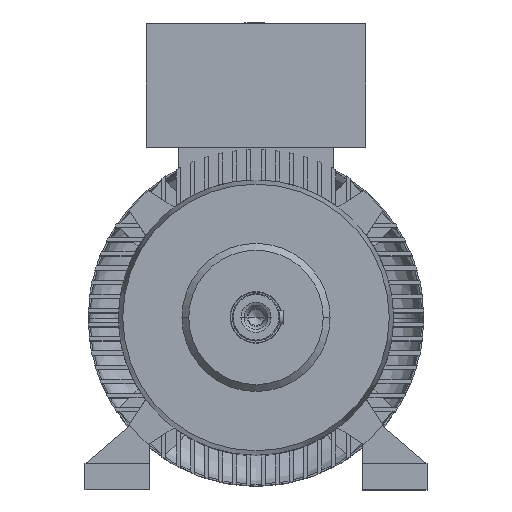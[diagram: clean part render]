
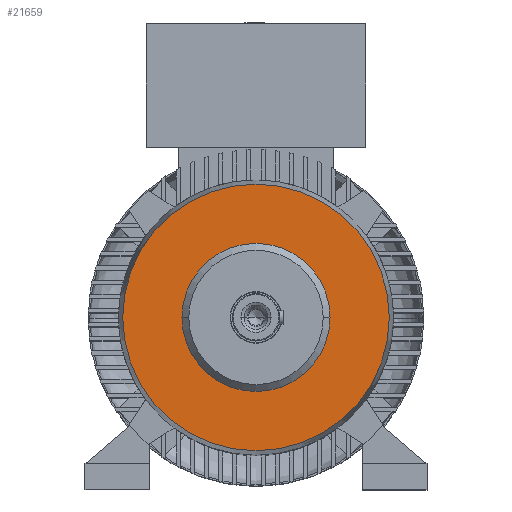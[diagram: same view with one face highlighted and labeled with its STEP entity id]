
A CAD part, top view. The second image highlights one B-rep face of the part: STEP entity #21659.
In plain terms, the highlighted planar face has unit normal (0, 0, 1).
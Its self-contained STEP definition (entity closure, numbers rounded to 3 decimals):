
#130 = AXIS2_PLACEMENT_3D ( 'NONE', #6249, #307, #8210 ) ;
#150 = CARTESIAN_POINT ( 'NONE',  ( 0., 0., 275.5 ) ) ;
#307 = DIRECTION ( 'NONE',  ( 0., 0., -1. ) ) ;
#3671 = EDGE_CURVE ( 'NONE', #22993, #3715, #10143, .T. ) ;
#3715 = VERTEX_POINT ( 'NONE', #15046 ) ;
#5599 = CARTESIAN_POINT ( 'NONE',  ( 0., 0., 275.5 ) ) ;
#5700 = DIRECTION ( 'NONE',  ( 1., 0., 0. ) ) ;
#5882 = PLANE ( 'NONE',  #22660 ) ;
#6249 = CARTESIAN_POINT ( 'NONE',  ( 0., 0., 275.5 ) ) ;
#8210 = DIRECTION ( 'NONE',  ( 1., 0., 0. ) ) ;
#8839 = EDGE_LOOP ( 'NONE', ( #21952, #17677 ) ) ;
#10143 = CIRCLE ( 'NONE', #20970, 86.2 ) ;
#12250 = ORIENTED_EDGE ( 'NONE', *, *, #3671, .T. ) ;
#12278 = CARTESIAN_POINT ( 'NONE',  ( 0., 155.101, 275.5 ) ) ;
#12319 = CARTESIAN_POINT ( 'NONE',  ( -86.2, 0., 275.5 ) ) ;
#13042 = DIRECTION ( 'NONE',  ( 0., -1., 0. ) ) ;
#13240 = EDGE_CURVE ( 'NONE', #17937, #16382, #20262, .T. ) ;
#13767 = CARTESIAN_POINT ( 'NONE',  ( 0., 155.101, 275.5 ) ) ;
#14944 = EDGE_LOOP ( 'NONE', ( #16823, #12250 ) ) ;
#14949 = DIRECTION ( 'NONE',  ( 0., 0., 1. ) ) ;
#15023 = CARTESIAN_POINT ( 'NONE',  ( 0., 0., 275.5 ) ) ;
#15046 = CARTESIAN_POINT ( 'NONE',  ( 86.2, 0., 275.5 ) ) ;
#15066 = CARTESIAN_POINT ( 'NONE',  ( 0., -155.101, 275.5 ) ) ;
#15391 = DIRECTION ( 'NONE',  ( 0., 0., -1. ) ) ;
#16382 = VERTEX_POINT ( 'NONE', #15066 ) ;
#16823 = ORIENTED_EDGE ( 'NONE', *, *, #23837, .T. ) ;
#16829 = FACE_OUTER_BOUND ( 'NONE', #8839, .T. ) ;
#17351 = DIRECTION ( 'NONE',  ( 1., 0., 0. ) ) ;
#17677 = ORIENTED_EDGE ( 'NONE', *, *, #13240, .T. ) ;
#17845 = DIRECTION ( 'NONE',  ( 0., 0., 1. ) ) ;
#17937 = VERTEX_POINT ( 'NONE', #12278 ) ;
#18673 = AXIS2_PLACEMENT_3D ( 'NONE', #150, #17845, #23631 ) ;
#19706 = CIRCLE ( 'NONE', #130, 86.2 ) ;
#19962 = EDGE_CURVE ( 'NONE', #16382, #17937, #24612, .T. ) ;
#20262 = CIRCLE ( 'NONE', #20860, 155.101 ) ;
#20860 = AXIS2_PLACEMENT_3D ( 'NONE', #15023, #14949, #13042 ) ;
#20970 = AXIS2_PLACEMENT_3D ( 'NONE', #5599, #15391, #17351 ) ;
#21659 = ADVANCED_FACE ( 'NONE', ( #23311, #16829 ), #5882, .F. ) ;
#21952 = ORIENTED_EDGE ( 'NONE', *, *, #19962, .T. ) ;
#22660 = AXIS2_PLACEMENT_3D ( 'NONE', #13767, #23600, #5700 ) ;
#22993 = VERTEX_POINT ( 'NONE', #12319 ) ;
#23311 = FACE_BOUND ( 'NONE', #14944, .T. ) ;
#23600 = DIRECTION ( 'NONE',  ( 0., 0., -1. ) ) ;
#23631 = DIRECTION ( 'NONE',  ( 0., -1., 0. ) ) ;
#23837 = EDGE_CURVE ( 'NONE', #3715, #22993, #19706, .T. ) ;
#24612 = CIRCLE ( 'NONE', #18673, 155.101 ) ;
